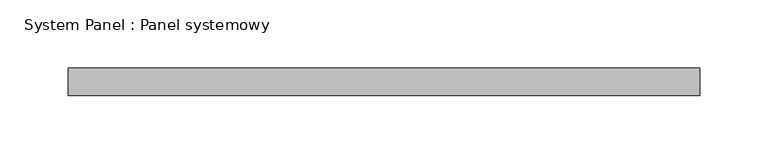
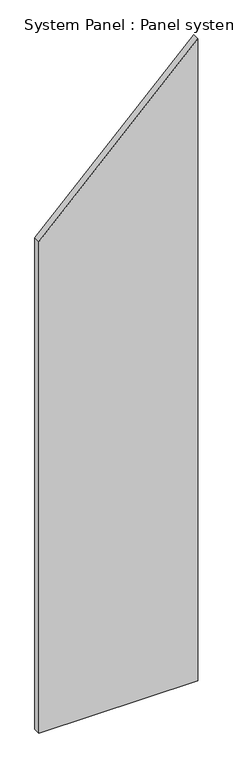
"""IFC4 building model written with IfcOpenShell, lengths in millimetres: plate geometry, System Panel : Panel systemowy."""

from ifc_helpers import new_model, si_unit, frame, origin, place, context, project, spatial, polyline, outline, extrude, source, transform, mapped, element, save


def system_panel_panel_systemowy_6b184b9a(model_context):
    return source(origin(), model_context, "Body", "SweptSolid", [
        extrude(outline(polyline([(0.0, -231.25), (0.0, 231.25), (1975.7359314, 231.25), (1513.2359314, -231.25), (0.0, -231.25)])), frame((0.0, -10.0, 0.0), z_axis=(0.0, 1.0, 0.0), x_axis=(0.0, 0.0, 1.0)), (0.0, 0.0, 1.0), 20.0),
    ])


if __name__ == "__main__":
    model = new_model("IFC4")
    model_context = context("Model", 3, world=origin())
    ifc_project = project(units=[si_unit("LENGTHUNIT", "METRE", prefix="MILLI")], contexts=[model_context])
    site = spatial("IfcSite", under=ifc_project)
    building = spatial("IfcBuilding", under=site)
    placement = place(None, origin())
    system_panel_panel_systemowy_shape = system_panel_panel_systemowy_6b184b9a(model_context)
    element("IfcPlate", 1, ObjectType="System Panel : Panel systemowy", at=placement, inside=building, context=model_context, shape_type="MappedRepresentation", body=[
        mapped(system_panel_panel_systemowy_shape, transform((0.0, 0.0, 0.0), x_axis=(1.0, 0.0, 0.0), y_axis=(0.0, 1.0, 0.0), z_axis=(0.0, 0.0, 1.0))),
    ])
    save(model, "model.ifc")
